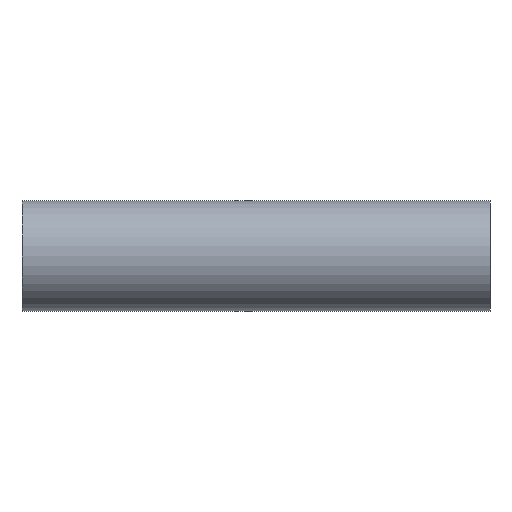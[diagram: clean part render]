
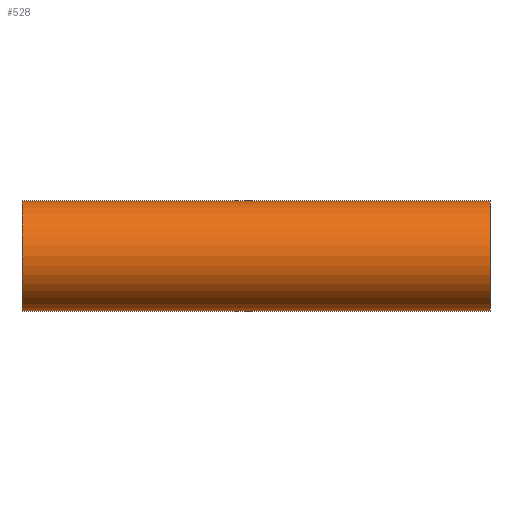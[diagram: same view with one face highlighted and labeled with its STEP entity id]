
A CAD part, front view. The second image highlights one B-rep face of the part: STEP entity #528.
In plain terms, the highlighted cylindrical face has radius 12.7 mm (diameter 25.4 mm), a partial arc.
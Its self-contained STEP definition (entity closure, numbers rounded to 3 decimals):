
#146 = DIRECTION ( 'NONE',  ( 0., 0., -1. ) ) ;
#147 = AXIS2_PLACEMENT_3D ( 'NONE', #539, #542, #146 ) ;
#182 = CIRCLE ( 'NONE', #502, 12.7 ) ;
#187 = DIRECTION ( 'NONE',  ( 0., 0., -1. ) ) ;
#190 = ORIENTED_EDGE ( 'NONE', *, *, #596, .T. ) ;
#193 = DIRECTION ( 'NONE',  ( -1., 0., 0. ) ) ;
#211 = CARTESIAN_POINT ( 'NONE',  ( 54., 0., 0. ) ) ;
#276 = ORIENTED_EDGE ( 'NONE', *, *, #892, .T. ) ;
#297 = CARTESIAN_POINT ( 'NONE',  ( -54., 0., -12.7 ) ) ;
#321 = ORIENTED_EDGE ( 'NONE', *, *, #575, .F. ) ;
#341 = ORIENTED_EDGE ( 'NONE', *, *, #533, .T. ) ;
#502 = AXIS2_PLACEMENT_3D ( 'NONE', #211, #193, #187 ) ;
#528 = ADVANCED_FACE ( 'NONE', ( #1139 ), #1075, .T. ) ;
#533 = EDGE_CURVE ( 'NONE', #675, #535, #1387, .T. ) ;
#535 = VERTEX_POINT ( 'NONE', #728 ) ;
#539 = CARTESIAN_POINT ( 'NONE',  ( -54., 0., 0. ) ) ;
#542 = DIRECTION ( 'NONE',  ( 1., 0., 0. ) ) ;
#575 = EDGE_CURVE ( 'NONE', #655, #1128, #984, .T. ) ;
#594 = DIRECTION ( 'NONE',  ( 1., 0., 0. ) ) ;
#596 = EDGE_CURVE ( 'NONE', #655, #675, #1002, .T. ) ;
#643 = CARTESIAN_POINT ( 'NONE',  ( -54., 0., -12.7 ) ) ;
#655 = VERTEX_POINT ( 'NONE', #1138 ) ;
#664 = AXIS2_PLACEMENT_3D ( 'NONE', #732, #1379, #1391 ) ;
#675 = VERTEX_POINT ( 'NONE', #297 ) ;
#728 = CARTESIAN_POINT ( 'NONE',  ( 54., 0., -12.7 ) ) ;
#732 = CARTESIAN_POINT ( 'NONE',  ( -54., 0., 0. ) ) ;
#854 = EDGE_LOOP ( 'NONE', ( #321, #190, #341, #276 ) ) ;
#868 = VECTOR ( 'NONE', #1201, 1000. ) ;
#892 = EDGE_CURVE ( 'NONE', #535, #1128, #182, .T. ) ;
#977 = CARTESIAN_POINT ( 'NONE',  ( 54., 0., 12.7 ) ) ;
#984 = LINE ( 'NONE', #1238, #868 ) ;
#1002 = CIRCLE ( 'NONE', #664, 12.7 ) ;
#1073 = VECTOR ( 'NONE', #594, 1000. ) ;
#1075 = CYLINDRICAL_SURFACE ( 'NONE', #147, 12.7 ) ;
#1128 = VERTEX_POINT ( 'NONE', #977 ) ;
#1138 = CARTESIAN_POINT ( 'NONE',  ( -54., 0., 12.7 ) ) ;
#1139 = FACE_OUTER_BOUND ( 'NONE', #854, .T. ) ;
#1201 = DIRECTION ( 'NONE',  ( 1., 0., 0. ) ) ;
#1238 = CARTESIAN_POINT ( 'NONE',  ( -54., 0., 12.7 ) ) ;
#1379 = DIRECTION ( 'NONE',  ( 1., 0., 0. ) ) ;
#1387 = LINE ( 'NONE', #643, #1073 ) ;
#1391 = DIRECTION ( 'NONE',  ( 0., 0., -1. ) ) ;
